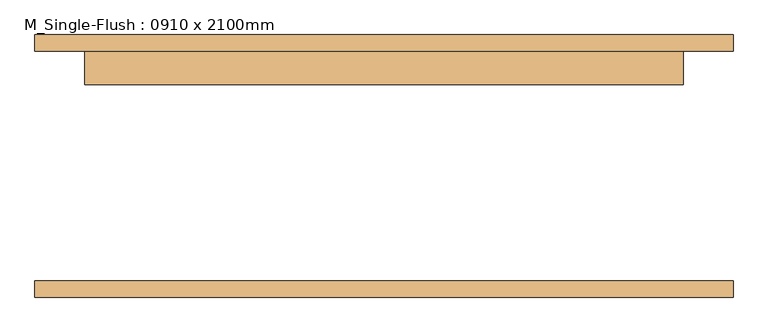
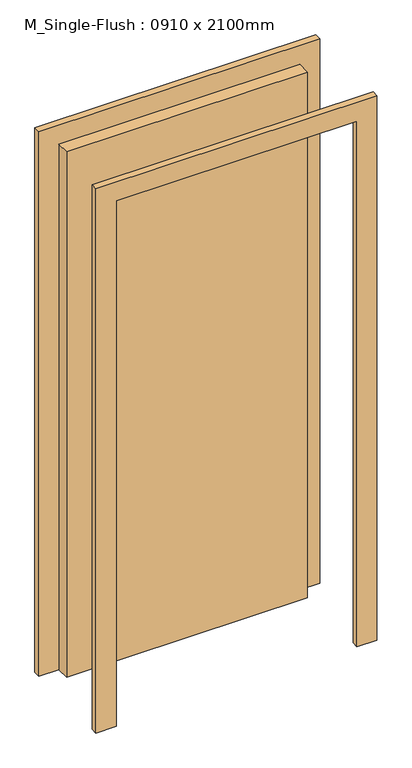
"""IFC4 building model written with IfcOpenShell, lengths in millimetres: door geometry, M_Single-Flush : 0910 x 2100mm."""

from ifc_helpers import new_model, si_unit, frame, origin, origin_with_axes, place, context, project, spatial, polyline, outline, extrude, source, transform, mapped, element, save


def m_single_flush_0910_x_2100mm_887f37dd(model_context):
    return source(origin(), model_context, "Body", "SweptSolid", [
        extrude(outline(polyline([(2176.0, -531.0), (0.0, -531.0), (0.0, -455.0), (2100.0, -455.0), (2100.0, 455.0), (0.0, 455.0), (0.0, 531.0), (2176.0, 531.0), (2176.0, -531.0)])), frame((0.0, 175.0, 0.0), z_axis=(0.0, 1.0, 0.0), x_axis=(0.0, 0.0, 1.0)), (0.0, 0.0, 1.0), 25.0),
        extrude(outline(polyline([(2176.0, 531.0), (2176.0, -531.0), (0.0, -531.0), (0.0, -455.0), (2100.0, -455.0), (2100.0, 455.0), (0.0, 455.0), (0.0, 531.0), (2176.0, 531.0)])), frame((0.0, -200.0, 0.0), z_axis=(0.0, 1.0, 0.0), x_axis=(0.0, 0.0, 1.0)), (0.0, 0.0, 1.0), 25.0),
        extrude(outline(polyline([(455.0, 124.0), (-455.0, 124.0), (-455.0, 175.0), (455.0, 175.0), (455.0, 124.0)])), origin_with_axes(), (0.0, 0.0, 1.0), 2100.0),
    ])


if __name__ == "__main__":
    model = new_model("IFC4")
    model_context = context("Model", 3, world=origin())
    ifc_project = project(units=[si_unit("LENGTHUNIT", "METRE", prefix="MILLI")], contexts=[model_context])
    site = spatial("IfcSite", under=ifc_project)
    building = spatial("IfcBuilding", under=site)
    placement = place(None, origin())
    m_single_flush_0910_x_2100mm_shape = m_single_flush_0910_x_2100mm_887f37dd(model_context)
    element("IfcDoor", 1, ObjectType="M_Single-Flush : 0910 x 2100mm", at=placement, inside=building, context=model_context, shape_type="MappedRepresentation", body=[
        mapped(m_single_flush_0910_x_2100mm_shape, transform((0.0, 0.0, 0.0), x_axis=(1.0, 0.0, 0.0), y_axis=(0.0, 1.0, 0.0), z_axis=(0.0, 0.0, 1.0))),
    ])
    save(model, "model.ifc")
